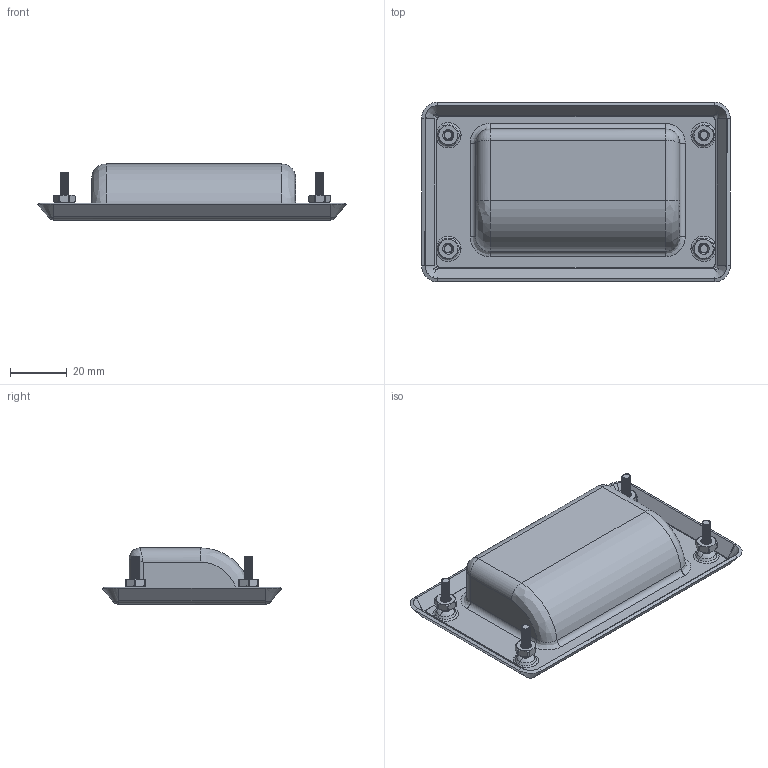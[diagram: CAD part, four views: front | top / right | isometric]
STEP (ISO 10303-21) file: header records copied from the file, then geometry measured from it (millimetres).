
FILE_DESCRIPTION (( 'STEP AP203' ), '1' );
FILE_NAME ('3dab-3302-01.STEP', '2016-01-30T05:46:52', ( '' ), ( '' ), 'SwSTEP 2.0', 'SolidWorks 2010', '' );
FILE_SCHEMA (( 'CONFIG_CONTROL_DESIGN' ));
Products named in the file (1): 3dab-3302-01
Bounding box: 108.87 x 63.37 x 19.8 mm (x, y, z)
Volume: 18255.4 mm3; surface area: 27624.5 mm2
Topology: 1 solids, 1 shells, 679 faces, 2003 edges, 1313 vertices
Faces by surface type: cylinder 500, bspline 84, plane 79, cone 16
Entity records: 82464 total; most frequent: CARTESIAN_POINT 67252, ORIENTED_EDGE 3974, EDGE_CURVE 1987, DIRECTION 1926, B_SPLINE_CURVE_WITH_KNOTS 1321, VERTEX_POINT 1313, EDGE_LOOP 690, FACE_OUTER_BOUND 679
